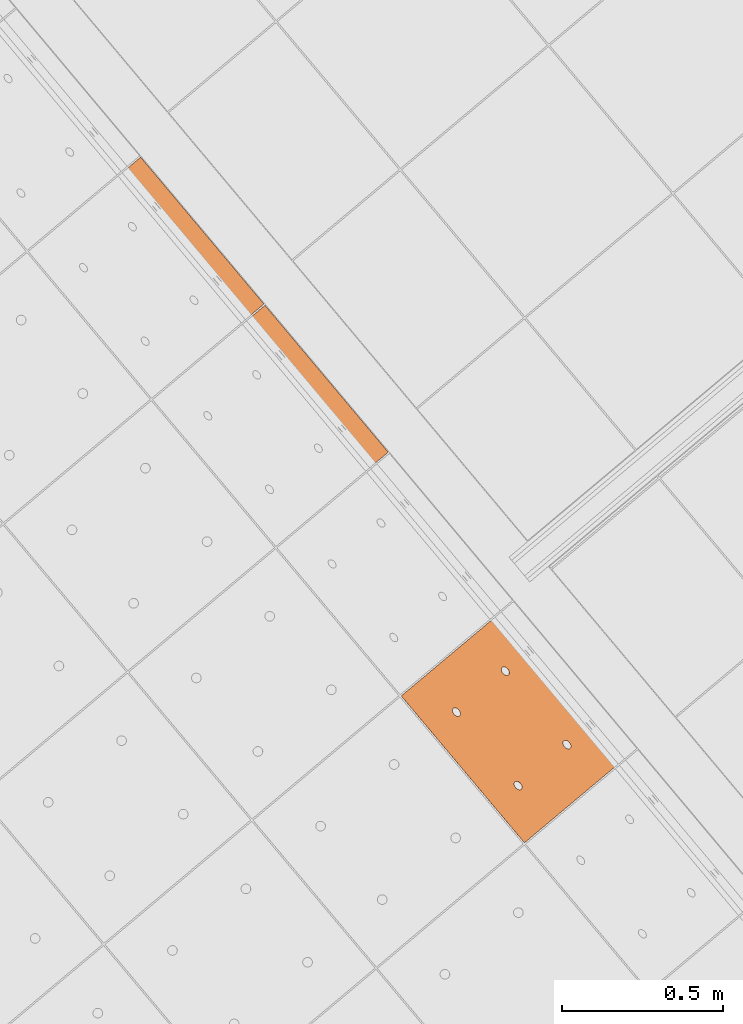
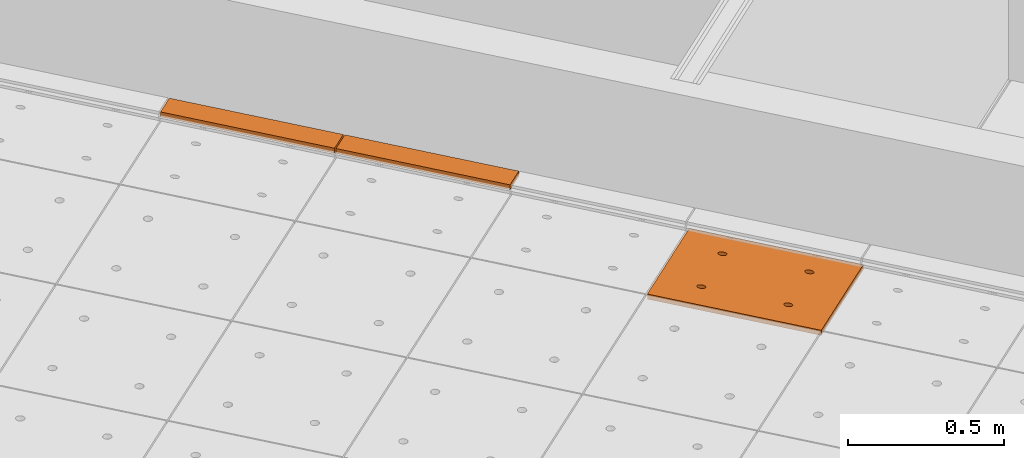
# One storey, part 209 of 338: 3 proxies, 1 element without a shape of its own.
"""IFC2X3 building model written with IfcOpenShell, lengths in millimetres."""

from ifc_helpers import new_model, entity, si_unit, converted_unit, derived_unit, money_unit, direction, frame, origin_with_axes, place, context, subcontext, project, spatial, faceted_brep, source, transform, mapped, material, type_object, type_shapes, element, aggregate, save


model = new_model("IFC2X3")

# Units and contexts
model_context = context("Model", 3, precision=0.01, world=origin_with_axes(), true_north=direction((0.0, 1.0)))
plan_context = context("Plan", 3, precision=0.01, world=origin_with_axes(), true_north=direction((0.0, 1.0)))
body_context = subcontext(model_context, "Body", "Model", "MODEL_VIEW")
ifc_project = project(units=[si_unit("LENGTHUNIT", "METRE", prefix="MILLI"), si_unit("AREAUNIT", "SQUARE_METRE"), si_unit("VOLUMEUNIT", "CUBIC_METRE"), converted_unit("PLANEANGLEUNIT", "DEGREE", entity("IfcPlaneAngleMeasure", 0.0174532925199), si_unit("PLANEANGLEUNIT", "RADIAN"), dimensions=[0, 0, 0, 0, 0, 0, 0]), money_unit("EUR"), converted_unit("TIMEUNIT", "Year", entity("IfcTimeMeasure", 31556926.0), si_unit("TIMEUNIT", "SECOND"), dimensions=[0, 0, 1, 0, 0, 0, 0]), si_unit("MASSUNIT", "GRAM", prefix="KILO"), si_unit("THERMODYNAMICTEMPERATUREUNIT", "DEGREE_CELSIUS"), si_unit("LUMINOUSINTENSITYUNIT", "LUMEN"), si_unit("ENERGYUNIT", "JOULE", prefix="MEGA"), derived_unit("THERMALCONDUCTANCEUNIT", [(si_unit("POWERUNIT", "WATT"), 1), (si_unit("LENGTHUNIT", "METRE"), -1), (si_unit("THERMODYNAMICTEMPERATUREUNIT", "KELVIN"), -1)]), derived_unit("SPECIFICHEATCAPACITYUNIT", [(si_unit("ENERGYUNIT", "JOULE"), 1), (si_unit("MASSUNIT", "GRAM", prefix="KILO"), -1), (si_unit("THERMODYNAMICTEMPERATUREUNIT", "KELVIN"), -1)]), derived_unit("MASSDENSITYUNIT", [(si_unit("MASSUNIT", "GRAM", prefix="KILO"), 1), (si_unit("VOLUMEUNIT", "CUBIC_METRE"), -1)])], contexts=[model_context, plan_context])

# Site, building, storey
site_placement = place(None, origin_with_axes())
site = spatial("IfcSite", under=ifc_project, at=site_placement, Name="Fortuinstraat Woensdrecht", CompositionType="ELEMENT")
building_placement = place(site_placement, origin_with_axes())
building = spatial("IfcBuilding", under=site, at=building_placement, Name="IKC Fortuna", CompositionType="ELEMENT")
storey_placement = place(building_placement, origin_with_axes())
storey = spatial("IfcBuildingStorey", under=building, at=storey_placement, Name="00 begane grond", CompositionType="ELEMENT", Elevation=0.0)

# Covering, proxies
covering_type = type_object("IfcCoveringType", Name="Curtain Wall Type", PredefinedType="CEILING")
covering_placement = place(storey_placement, frame((15863.124366, 4456.31398675, 4619.99995334), z_axis=(0.0, 0.0, 1.0), x_axis=(1.0, 0.0, 0.0)))
covering = element("IfcCovering", 1, at=covering_placement, inside=storey, type_object=covering_type, Name="45_Plafondafwerking_P01", PredefinedType="CEILING")
ifc_material = material(Name="Gipsplaat")
building_element_proxy_type_1 = type_object("IfcBuildingElementProxyType", Name="87 x 600 x 20", PredefinedType="NOTDEFINED")
shared_shape_1 = source(origin_with_axes(), body_context, "Body", "Brep", [
    faceted_brep([(142.231825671, 2.50000288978, -10.0), (224.589027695, 2.49999998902, -10.0), (224.589027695, 2.49999998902, 10.0), (142.231825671, 2.50000288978, 10.0), (142.231835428, 597.500004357, -10.0), (224.589037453, 597.500001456, -10.0), (224.589037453, 597.500001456, 10.0), (142.231835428, 597.500004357, 10.0)], [[[0, 1, 2, 3]], [[0, 4, 5, 1]], [[1, 5, 6, 2]], [[3, 2, 6, 7]], [[4, 0, 3, 7]], [[5, 4, 7, 6]]]),
])
type_shapes(building_element_proxy_type_1, [shared_shape_1])
proxy_1_placement = place(covering_placement, frame((-3298.3340239, 3930.79941924, 40.0000466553), z_axis=(0.0, 0.0, 1.0), x_axis=(1.0, 0.0, 0.0)))
proxy_1 = element("IfcBuildingElementProxy", 2, at=proxy_1_placement, type_object=building_element_proxy_type_1, material=ifc_material, Name="__600x707 Rockfon Krios", context=body_context, shape_type="MappedRepresentation", body=[
    mapped(shared_shape_1, transform((-52.3358293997, 347.707272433, -1.1901590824e-10), x_axis=(-0.766044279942, -0.642787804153, 0.0), y_axis=(0.642787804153, -0.766044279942, 0.0), z_axis=(0.0, 0.0, 1.0))),
])
proxy_2_placement = place(covering_placement, frame((-2912.66134141, 3471.17285127, 40.0000466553), z_axis=(0.0, 0.0, 1.0), x_axis=(1.0, 0.0, 0.0)))
proxy_2 = element("IfcBuildingElementProxy", 3, at=proxy_2_placement, type_object=building_element_proxy_type_1, material=ifc_material, Name="__600x753 Rockfon Krios", context=body_context, shape_type="MappedRepresentation", body=[
    mapped(shared_shape_1, transform((-52.3358293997, 347.707272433, -1.1901590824e-10), x_axis=(-0.766044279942, -0.642787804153, 0.0), y_axis=(0.642787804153, -0.766044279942, 0.0), z_axis=(0.0, 0.0, 1.0))),
])
building_element_proxy_type_2 = type_object("IfcBuildingElementProxyType", Name="Main Panel 401 x 600 x 20", PredefinedType="NOTDEFINED")
shared_shape_2 = source(origin_with_axes(), body_context, "Body", "Brep", [
    faceted_brep([(2.49999200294, 2.49999800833, -10.0), (200.390796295, 2.49999800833, -10.0), (200.390796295, 2.49999800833, 10.0), (2.49999200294, 2.49999800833, 10.0), (2.49999200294, 299.999999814, -10.0), (2.49999200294, 597.50000162, -10.0), (200.390796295, 597.50000162, -10.0), (398.281600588, 597.50000162, -10.0), (398.281600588, 299.999999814, -10.0), (398.281600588, 2.49999800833, -10.0), (111.423081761, 450.062330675, -10.0), (111.119914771, 452.647116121, -10.0), (110.522792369, 455.113489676, -10.0), (109.649857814, 457.38651185, -10.0), (108.527634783, 459.397117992, -10.0), (107.190221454, 461.084216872, -10.0), (105.678254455, 462.39654683, -10.0), (104.037674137, 463.294233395, -10.0), (102.318328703, 463.750000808, -10.0), (100.572459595, 463.750000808, -10.0), (98.8531141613, 463.294233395, -10.0), (97.212533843, 462.39654683, -10.0), (95.7005668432, 461.084216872, -10.0), (94.3631535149, 459.397117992, -10.0), (93.240930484, 457.38651185, -10.0), (92.3679959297, 455.113489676, -10.0), (91.7708735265, 452.647116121, -10.0), (91.4677065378, 450.062330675, -10.0), (91.4677065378, 448.750000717, -10.0), (91.4677065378, 447.437670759, -10.0), (91.7708735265, 444.852885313, -10.0), (92.3679959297, 442.386511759, -10.0), (93.240930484, 440.113489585, -10.0), (94.3631535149, 438.102883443, -10.0), (95.7005668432, 436.415784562, -10.0), (97.212533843, 435.103454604, -10.0), (98.8531141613, 434.205768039, -10.0), (100.572459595, 433.750000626, -10.0), (102.318328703, 433.750000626, -10.0), (104.037674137, 434.205768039, -10.0), (105.678254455, 435.103454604, -10.0), (107.190221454, 436.415784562, -10.0), (108.527634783, 438.102883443, -10.0), (109.649857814, 440.113489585, -10.0), (110.522792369, 442.386511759, -10.0), (111.119914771, 444.852885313, -10.0), (111.423081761, 447.437670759, -10.0), (309.313886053, 450.062330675, -10.0), (309.010719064, 452.647116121, -10.0), (308.413596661, 455.113489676, -10.0), (307.540662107, 457.38651185, -10.0), (306.418439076, 459.397117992, -10.0), (305.081025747, 461.084216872, -10.0), (303.569058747, 462.39654683, -10.0), (301.928478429, 463.294233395, -10.0), (300.209132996, 463.750000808, -10.0), (298.463263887, 463.750000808, -10.0), (296.743918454, 463.294233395, -10.0), (295.103338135, 462.39654683, -10.0), (293.591371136, 461.084216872, -10.0), (292.253957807, 459.397117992, -10.0), (291.131734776, 457.38651185, -10.0), (290.258800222, 455.113489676, -10.0), (289.661677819, 452.647116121, -10.0), (289.35851083, 450.062330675, -10.0), (289.35851083, 448.750000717, -10.0), (289.35851083, 447.437670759, -10.0), (289.661677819, 444.852885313, -10.0), (290.258800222, 442.386511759, -10.0), (291.131734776, 440.113489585, -10.0), (292.253957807, 438.102883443, -10.0), (293.591371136, 436.415784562, -10.0), (295.103338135, 435.103454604, -10.0), (296.743918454, 434.205768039, -10.0), (298.463263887, 433.750000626, -10.0), (300.209132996, 433.750000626, -10.0), (301.928478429, 434.205768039, -10.0), (303.569058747, 435.103454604, -10.0), (305.081025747, 436.415784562, -10.0), (306.418439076, 438.102883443, -10.0), (307.540662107, 440.113489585, -10.0), (308.413596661, 442.386511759, -10.0), (309.010719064, 444.852885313, -10.0), (309.313886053, 447.437670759, -10.0), (309.313886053, 152.562328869, -10.0), (309.010719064, 155.147114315, -10.0), (308.413596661, 157.61348787, -10.0), (307.540662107, 159.886510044, -10.0), (306.418439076, 161.897116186, -10.0), (305.081025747, 163.584215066, -10.0), (303.569058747, 164.896545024, -10.0), (301.928478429, 165.79423159, -10.0), (300.209132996, 166.249999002, -10.0), (298.463263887, 166.249999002, -10.0), (296.743918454, 165.79423159, -10.0), (295.103338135, 164.896545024, -10.0), (293.591371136, 163.584215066, -10.0), (292.253957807, 161.897116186, -10.0), (291.131734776, 159.886510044, -10.0), (290.258800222, 157.61348787, -10.0), (289.661677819, 155.147114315, -10.0), (289.35851083, 152.562328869, -10.0), (289.35851083, 151.249998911, -10.0), (289.35851083, 149.937668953, -10.0), (289.661677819, 147.352883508, -10.0), (290.258800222, 144.886509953, -10.0), (291.131734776, 142.613487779, -10.0), (292.253957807, 140.602881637, -10.0), (293.591371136, 138.915782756, -10.0), (295.103338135, 137.603452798, -10.0), (296.743918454, 136.705766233, -10.0), (298.463263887, 136.24999882, -10.0), (300.209132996, 136.24999882, -10.0), (301.928478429, 136.705766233, -10.0), (303.569058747, 137.603452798, -10.0), (305.081025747, 138.915782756, -10.0), (306.418439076, 140.602881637, -10.0), (307.540662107, 142.613487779, -10.0), (308.413596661, 144.886509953, -10.0), (309.010719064, 147.352883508, -10.0), (309.313886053, 149.937668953, -10.0), (111.423081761, 152.562328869, -10.0), (111.119914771, 155.147114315, -10.0), (110.522792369, 157.61348787, -10.0), (109.649857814, 159.886510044, -10.0), (108.527634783, 161.897116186, -10.0), (107.190221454, 163.584215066, -10.0), (105.678254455, 164.896545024, -10.0), (104.037674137, 165.79423159, -10.0), (102.318328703, 166.249999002, -10.0), (100.572459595, 166.249999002, -10.0), (98.8531141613, 165.79423159, -10.0), (97.212533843, 164.896545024, -10.0), (95.7005668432, 163.584215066, -10.0), (94.3631535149, 161.897116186, -10.0), (93.240930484, 159.886510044, -10.0), (92.3679959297, 157.61348787, -10.0), (91.7708735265, 155.147114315, -10.0), (91.4677065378, 152.562328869, -10.0), (91.4677065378, 151.249998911, -10.0), (91.4677065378, 149.937668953, -10.0), (91.7708735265, 147.352883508, -10.0), (92.3679959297, 144.886509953, -10.0), (93.240930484, 142.613487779, -10.0), (94.3631535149, 140.602881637, -10.0), (95.7005668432, 138.915782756, -10.0), (97.212533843, 137.603452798, -10.0), (98.8531141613, 136.705766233, -10.0), (100.572459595, 136.24999882, -10.0), (102.318328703, 136.24999882, -10.0), (104.037674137, 136.705766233, -10.0), (105.678254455, 137.603452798, -10.0), (107.190221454, 138.915782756, -10.0), (108.527634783, 140.602881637, -10.0), (109.649857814, 142.613487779, -10.0), (110.522792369, 144.886509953, -10.0), (111.119914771, 147.352883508, -10.0), (111.423081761, 149.937668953, -10.0), (398.281600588, 2.49999800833, 10.0), (398.281600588, 299.999999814, 10.0), (398.281600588, 597.50000162, 10.0), (200.390796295, 597.50000162, 10.0), (2.49999200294, 597.50000162, 10.0), (2.49999200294, 299.999999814, 10.0), (111.423081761, 450.062330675, 10.0), (111.423081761, 447.437670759, 10.0), (111.119914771, 444.852885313, 10.0), (110.522792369, 442.386511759, 10.0), (109.649857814, 440.113489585, 10.0), (108.527634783, 438.102883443, 10.0), (107.190221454, 436.415784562, 10.0), (105.678254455, 435.103454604, 10.0), (104.037674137, 434.205768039, 10.0), (102.318328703, 433.750000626, 10.0), (100.572459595, 433.750000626, 10.0), (98.8531141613, 434.205768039, 10.0), (97.212533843, 435.103454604, 10.0), (95.7005668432, 436.415784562, 10.0), (94.3631535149, 438.102883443, 10.0), (93.240930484, 440.113489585, 10.0), (92.3679959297, 442.386511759, 10.0), (91.7708735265, 444.852885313, 10.0), (91.4677065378, 447.437670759, 10.0), (91.4677065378, 448.750000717, 10.0), (91.4677065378, 450.062330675, 10.0), (91.7708735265, 452.647116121, 10.0), (92.3679959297, 455.113489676, 10.0), (93.240930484, 457.38651185, 10.0), (94.3631535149, 459.397117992, 10.0), (95.7005668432, 461.084216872, 10.0), (97.212533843, 462.39654683, 10.0), (98.8531141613, 463.294233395, 10.0), (100.572459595, 463.750000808, 10.0), (102.318328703, 463.750000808, 10.0), (104.037674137, 463.294233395, 10.0), (105.678254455, 462.39654683, 10.0), (107.190221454, 461.084216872, 10.0), (108.527634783, 459.397117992, 10.0), (109.649857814, 457.38651185, 10.0), (110.522792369, 455.113489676, 10.0), (111.119914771, 452.647116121, 10.0), (309.313886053, 450.062330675, 10.0), (309.313886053, 447.437670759, 10.0), (309.010719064, 444.852885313, 10.0), (308.413596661, 442.386511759, 10.0), (307.540662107, 440.113489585, 10.0), (306.418439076, 438.102883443, 10.0), (305.081025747, 436.415784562, 10.0), (303.569058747, 435.103454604, 10.0), (301.928478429, 434.205768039, 10.0), (300.209132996, 433.750000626, 10.0), (298.463263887, 433.750000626, 10.0), (296.743918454, 434.205768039, 10.0), (295.103338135, 435.103454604, 10.0), (293.591371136, 436.415784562, 10.0), (292.253957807, 438.102883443, 10.0), (291.131734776, 440.113489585, 10.0), (290.258800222, 442.386511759, 10.0), (289.661677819, 444.852885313, 10.0), (289.35851083, 447.437670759, 10.0), (289.35851083, 448.750000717, 10.0), (289.35851083, 450.062330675, 10.0), (289.661677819, 452.647116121, 10.0), (290.258800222, 455.113489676, 10.0), (291.131734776, 457.38651185, 10.0), (292.253957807, 459.397117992, 10.0), (293.591371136, 461.084216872, 10.0), (295.103338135, 462.39654683, 10.0), (296.743918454, 463.294233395, 10.0), (298.463263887, 463.750000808, 10.0), (300.209132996, 463.750000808, 10.0), (301.928478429, 463.294233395, 10.0), (303.569058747, 462.39654683, 10.0), (305.081025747, 461.084216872, 10.0), (306.418439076, 459.397117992, 10.0), (307.540662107, 457.38651185, 10.0), (308.413596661, 455.113489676, 10.0), (309.010719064, 452.647116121, 10.0), (309.313886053, 152.562328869, 10.0), (309.313886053, 149.937668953, 10.0), (309.010719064, 147.352883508, 10.0), (308.413596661, 144.886509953, 10.0), (307.540662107, 142.613487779, 10.0), (306.418439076, 140.602881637, 10.0), (305.081025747, 138.915782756, 10.0), (303.569058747, 137.603452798, 10.0), (301.928478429, 136.705766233, 10.0), (300.209132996, 136.24999882, 10.0), (298.463263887, 136.24999882, 10.0), (296.743918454, 136.705766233, 10.0), (295.103338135, 137.603452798, 10.0), (293.591371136, 138.915782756, 10.0), (292.253957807, 140.602881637, 10.0), (291.131734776, 142.613487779, 10.0), (290.258800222, 144.886509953, 10.0), (289.661677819, 147.352883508, 10.0), (289.35851083, 149.937668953, 10.0), (289.35851083, 151.249998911, 10.0), (289.35851083, 152.562328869, 10.0), (289.661677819, 155.147114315, 10.0), (290.258800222, 157.61348787, 10.0), (291.131734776, 159.886510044, 10.0), (292.253957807, 161.897116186, 10.0), (293.591371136, 163.584215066, 10.0), (295.103338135, 164.896545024, 10.0), (296.743918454, 165.79423159, 10.0), (298.463263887, 166.249999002, 10.0), (300.209132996, 166.249999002, 10.0), (301.928478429, 165.79423159, 10.0), (303.569058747, 164.896545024, 10.0), (305.081025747, 163.584215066, 10.0), (306.418439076, 161.897116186, 10.0), (307.540662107, 159.886510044, 10.0), (308.413596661, 157.61348787, 10.0), (309.010719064, 155.147114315, 10.0), (111.423081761, 152.562328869, 10.0), (111.423081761, 149.937668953, 10.0), (111.119914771, 147.352883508, 10.0), (110.522792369, 144.886509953, 10.0), (109.649857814, 142.613487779, 10.0), (108.527634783, 140.602881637, 10.0), (107.190221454, 138.915782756, 10.0), (105.678254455, 137.603452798, 10.0), (104.037674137, 136.705766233, 10.0), (102.318328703, 136.24999882, 10.0), (100.572459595, 136.24999882, 10.0), (98.8531141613, 136.705766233, 10.0), (97.212533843, 137.603452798, 10.0), (95.7005668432, 138.915782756, 10.0), (94.3631535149, 140.602881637, 10.0), (93.240930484, 142.613487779, 10.0), (92.3679959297, 144.886509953, 10.0), (91.7708735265, 147.352883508, 10.0), (91.4677065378, 149.937668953, 10.0), (91.4677065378, 151.249998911, 10.0), (91.4677065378, 152.562328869, 10.0), (91.7708735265, 155.147114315, 10.0), (92.3679959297, 157.61348787, 10.0), (93.240930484, 159.886510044, 10.0), (94.3631535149, 161.897116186, 10.0), (95.7005668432, 163.584215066, 10.0), (97.212533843, 164.896545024, 10.0), (98.8531141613, 165.79423159, 10.0), (100.572459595, 166.249999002, 10.0), (102.318328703, 166.249999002, 10.0), (104.037674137, 165.79423159, 10.0), (105.678254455, 164.896545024, 10.0), (107.190221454, 163.584215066, 10.0), (108.527634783, 161.897116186, 10.0), (109.649857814, 159.886510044, 10.0), (110.522792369, 157.61348787, 10.0), (111.119914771, 155.147114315, 10.0)], [[[0, 1, 2, 3]], [[0, 4, 5, 6, 7, 8, 9, 1], [10, 11, 12, 13, 14, 15, 16, 17, 18, 19, 20, 21, 22, 23, 24, 25, 26, 27, 28, 29, 30, 31, 32, 33, 34, 35, 36, 37, 38, 39, 40, 41, 42, 43, 44, 45, 46], [47, 48, 49, 50, 51, 52, 53, 54, 55, 56, 57, 58, 59, 60, 61, 62, 63, 64, 65, 66, 67, 68, 69, 70, 71, 72, 73, 74, 75, 76, 77, 78, 79, 80, 81, 82, 83], [84, 85, 86, 87, 88, 89, 90, 91, 92, 93, 94, 95, 96, 97, 98, 99, 100, 101, 102, 103, 104, 105, 106, 107, 108, 109, 110, 111, 112, 113, 114, 115, 116, 117, 118, 119, 120], [121, 122, 123, 124, 125, 126, 127, 128, 129, 130, 131, 132, 133, 134, 135, 136, 137, 138, 139, 140, 141, 142, 143, 144, 145, 146, 147, 148, 149, 150, 151, 152, 153, 154, 155, 156, 157]], [[1, 9, 158, 2]], [[3, 2, 158, 159, 160, 161, 162, 163], [164, 165, 166, 167, 168, 169, 170, 171, 172, 173, 174, 175, 176, 177, 178, 179, 180, 181, 182, 183, 184, 185, 186, 187, 188, 189, 190, 191, 192, 193, 194, 195, 196, 197, 198, 199, 200], [201, 202, 203, 204, 205, 206, 207, 208, 209, 210, 211, 212, 213, 214, 215, 216, 217, 218, 219, 220, 221, 222, 223, 224, 225, 226, 227, 228, 229, 230, 231, 232, 233, 234, 235, 236, 237], [238, 239, 240, 241, 242, 243, 244, 245, 246, 247, 248, 249, 250, 251, 252, 253, 254, 255, 256, 257, 258, 259, 260, 261, 262, 263, 264, 265, 266, 267, 268, 269, 270, 271, 272, 273, 274], [275, 276, 277, 278, 279, 280, 281, 282, 283, 284, 285, 286, 287, 288, 289, 290, 291, 292, 293, 294, 295, 296, 297, 298, 299, 300, 301, 302, 303, 304, 305, 306, 307, 308, 309, 310, 311]], [[4, 0, 3, 163]], [[5, 4, 163, 162]], [[6, 5, 162, 161]], [[7, 6, 161, 160]], [[8, 7, 160, 159]], [[9, 8, 159, 158]], [[11, 10, 164, 200]], [[12, 11, 200, 199]], [[13, 12, 199, 198]], [[14, 13, 198, 197]], [[15, 14, 197, 196]], [[16, 15, 196, 195]], [[17, 16, 195, 194]], [[18, 17, 194, 193]], [[19, 18, 193, 192]], [[20, 19, 192, 191]], [[21, 20, 191, 190]], [[22, 21, 190, 189]], [[23, 22, 189, 188]], [[24, 23, 188, 187]], [[25, 24, 187, 186]], [[26, 25, 186, 185]], [[27, 26, 185, 184]], [[28, 27, 184, 183]], [[29, 28, 183, 182]], [[30, 29, 182, 181]], [[31, 30, 181, 180]], [[32, 31, 180, 179]], [[33, 32, 179, 178]], [[34, 33, 178, 177]], [[35, 34, 177, 176]], [[36, 35, 176, 175]], [[37, 36, 175, 174]], [[38, 37, 174, 173]], [[39, 38, 173, 172]], [[40, 39, 172, 171]], [[41, 40, 171, 170]], [[42, 41, 170, 169]], [[43, 42, 169, 168]], [[44, 43, 168, 167]], [[45, 44, 167, 166]], [[46, 45, 166, 165]], [[10, 46, 165, 164]], [[48, 47, 201, 237]], [[49, 48, 237, 236]], [[50, 49, 236, 235]], [[51, 50, 235, 234]], [[52, 51, 234, 233]], [[53, 52, 233, 232]], [[54, 53, 232, 231]], [[55, 54, 231, 230]], [[56, 55, 230, 229]], [[57, 56, 229, 228]], [[58, 57, 228, 227]], [[59, 58, 227, 226]], [[60, 59, 226, 225]], [[61, 60, 225, 224]], [[62, 61, 224, 223]], [[63, 62, 223, 222]], [[64, 63, 222, 221]], [[65, 64, 221, 220]], [[66, 65, 220, 219]], [[67, 66, 219, 218]], [[68, 67, 218, 217]], [[69, 68, 217, 216]], [[70, 69, 216, 215]], [[71, 70, 215, 214]], [[72, 71, 214, 213]], [[73, 72, 213, 212]], [[74, 73, 212, 211]], [[75, 74, 211, 210]], [[76, 75, 210, 209]], [[77, 76, 209, 208]], [[78, 77, 208, 207]], [[79, 78, 207, 206]], [[80, 79, 206, 205]], [[81, 80, 205, 204]], [[82, 81, 204, 203]], [[83, 82, 203, 202]], [[47, 83, 202, 201]], [[85, 84, 238, 274]], [[86, 85, 274, 273]], [[87, 86, 273, 272]], [[88, 87, 272, 271]], [[89, 88, 271, 270]], [[90, 89, 270, 269]], [[91, 90, 269, 268]], [[92, 91, 268, 267]], [[93, 92, 267, 266]], [[94, 93, 266, 265]], [[95, 94, 265, 264]], [[96, 95, 264, 263]], [[97, 96, 263, 262]], [[98, 97, 262, 261]], [[99, 98, 261, 260]], [[100, 99, 260, 259]], [[101, 100, 259, 258]], [[102, 101, 258, 257]], [[103, 102, 257, 256]], [[104, 103, 256, 255]], [[105, 104, 255, 254]], [[106, 105, 254, 253]], [[107, 106, 253, 252]], [[108, 107, 252, 251]], [[109, 108, 251, 250]], [[110, 109, 250, 249]], [[111, 110, 249, 248]], [[112, 111, 248, 247]], [[113, 112, 247, 246]], [[114, 113, 246, 245]], [[115, 114, 245, 244]], [[116, 115, 244, 243]], [[117, 116, 243, 242]], [[118, 117, 242, 241]], [[119, 118, 241, 240]], [[120, 119, 240, 239]], [[84, 120, 239, 238]], [[122, 121, 275, 311]], [[123, 122, 311, 310]], [[124, 123, 310, 309]], [[125, 124, 309, 308]], [[126, 125, 308, 307]], [[127, 126, 307, 306]], [[128, 127, 306, 305]], [[129, 128, 305, 304]], [[130, 129, 304, 303]], [[131, 130, 303, 302]], [[132, 131, 302, 301]], [[133, 132, 301, 300]], [[134, 133, 300, 299]], [[135, 134, 299, 298]], [[136, 135, 298, 297]], [[137, 136, 297, 296]], [[138, 137, 296, 295]], [[139, 138, 295, 294]], [[140, 139, 294, 293]], [[141, 140, 293, 292]], [[142, 141, 292, 291]], [[143, 142, 291, 290]], [[144, 143, 290, 289]], [[145, 144, 289, 288]], [[146, 145, 288, 287]], [[147, 146, 287, 286]], [[148, 147, 286, 285]], [[149, 148, 285, 284]], [[150, 149, 284, 283]], [[151, 150, 283, 282]], [[152, 151, 282, 281]], [[153, 152, 281, 280]], [[154, 153, 280, 279]], [[155, 154, 279, 278]], [[156, 155, 278, 277]], [[157, 156, 277, 276]], [[121, 157, 276, 275]]]),
])
type_shapes(building_element_proxy_type_2, [shared_shape_2])
proxy_3_placement = place(covering_placement, frame((-2307.01437191, 2412.88218112, 1.08315923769), z_axis=(0.0, 0.0, 1.0), x_axis=(0.642787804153, -0.766044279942, 0.0)))
proxy_3 = element("IfcBuildingElementProxy", 4, at=proxy_3_placement, type_object=building_element_proxy_type_2, material=ifc_material, Name="__600x996 Rockfon Krios", context=body_context, shape_type="MappedRepresentation", body=[
    mapped(shared_shape_2, transform((-300.0, 200.387875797, -1.08311258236), x_axis=(0.0, -0.999985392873, 0.00540500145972), y_axis=(1.0, 0.0, 0.0), z_axis=(0.0, 0.00540500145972, 0.999985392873))),
])
aggregate(covering, [proxy_1, proxy_2, proxy_3])

save(model, "model.ifc")
